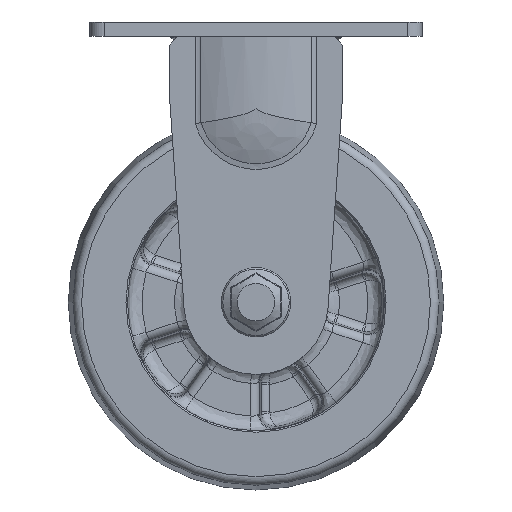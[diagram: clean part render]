
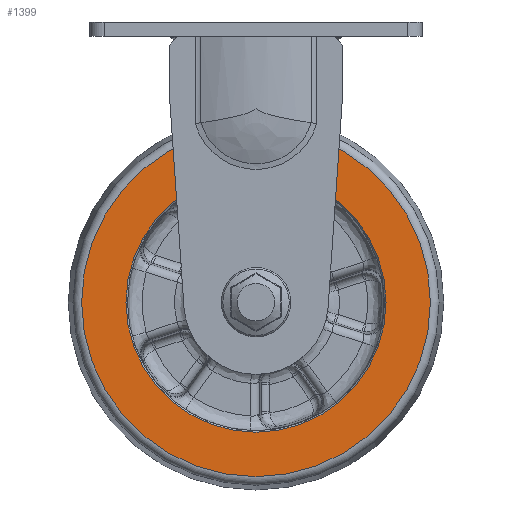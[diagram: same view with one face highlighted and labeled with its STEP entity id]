
A CAD part, front view. The second image highlights one B-rep face of the part: STEP entity #1399.
In plain terms, the highlighted planar face has unit normal (0, -1, 0).
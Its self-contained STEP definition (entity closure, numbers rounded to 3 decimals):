
#180=CARTESIAN_POINT('',(60.367,-20.,-94.5));
#181=VERTEX_POINT('',#180);
#182=CARTESIAN_POINT('',(-0.006,-20.,-94.5));
#183=DIRECTION('',(0.0,1.0,0.0));
#184=DIRECTION('',(-1.0,0.0,0.0));
#185=AXIS2_PLACEMENT_3D('',#182,#183,#184);
#186=CIRCLE('',#185,60.373);
#187=EDGE_CURVE('',#181,#181,#186,.T.);
#1050=CARTESIAN_POINT('',(-45.006,-20.,-94.5));
#1051=VERTEX_POINT('',#1050);
#1052=CARTESIAN_POINT('',(-0.006,-20.,-94.5));
#1053=DIRECTION('',(0.0,-1.0,0.0));
#1054=DIRECTION('',(1.0,0.0,0.0));
#1055=AXIS2_PLACEMENT_3D('',#1052,#1053,#1054);
#1056=CIRCLE('',#1055,45.);
#1057=EDGE_CURVE('',#1051,#1051,#1056,.T.);
#1388=CARTESIAN_POINT('',(-47.506,-20.,-94.5));
#1389=DIRECTION('',(0.0,-1.0,0.0));
#1390=DIRECTION('',(0.0,0.0,-1.0));
#1391=AXIS2_PLACEMENT_3D('',#1388,#1389,#1390);
#1392=PLANE('',#1391);
#1393=ORIENTED_EDGE('',*,*,#187,.F.);
#1394=EDGE_LOOP('',(#1393));
#1395=FACE_OUTER_BOUND('',#1394,.T.);
#1396=ORIENTED_EDGE('',*,*,#1057,.F.);
#1397=EDGE_LOOP('',(#1396));
#1398=FACE_BOUND('',#1397,.T.);
#1399=ADVANCED_FACE('',(#1395,#1398),#1392,.T.);
